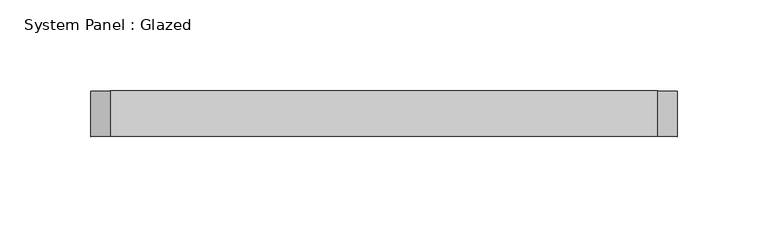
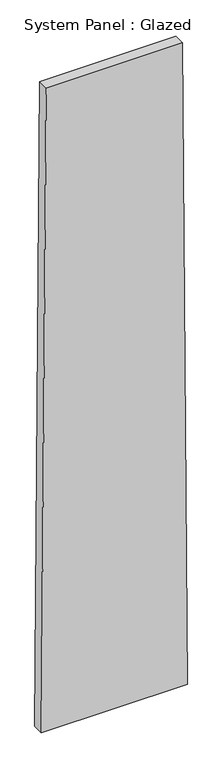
"""IFC4 building model written with IfcOpenShell, lengths in millimetres: plate geometry, System Panel : Glazed."""

from ifc_helpers import new_model, si_unit, frame, origin, place, context, project, spatial, polyline, outline, extrude, source, transform, mapped, element, save


def system_panel_glazed_ca00df24(model_context):
    return source(origin(), model_context, "Body", "SweptSolid", [
        extrude(outline(polyline([(0.0, -161.1005585), (0.0, 161.1005585), (1499.9634375, 150.6273521), (1499.9634375, -150.6274434), (0.0, -161.1005585)])), frame((0.0, -49.5, 0.0), z_axis=(0.0, 1.0, 0.0), x_axis=(0.0, 0.0, 1.0)), (0.0, 0.0, 1.0), 25.0),
    ])


if __name__ == "__main__":
    model = new_model("IFC4")
    model_context = context("Model", 3, world=origin())
    ifc_project = project(units=[si_unit("LENGTHUNIT", "METRE", prefix="MILLI")], contexts=[model_context])
    site = spatial("IfcSite", under=ifc_project)
    building = spatial("IfcBuilding", under=site)
    placement = place(None, origin())
    system_panel_glazed_shape = system_panel_glazed_ca00df24(model_context)
    element("IfcPlate", 1, ObjectType="System Panel : Glazed", at=placement, inside=building, context=model_context, shape_type="MappedRepresentation", body=[
        mapped(system_panel_glazed_shape, transform((0.0, 0.0, 0.0), x_axis=(1.0, 0.0, 0.0), y_axis=(0.0, 1.0, 0.0), z_axis=(0.0, 0.0, 1.0))),
    ])
    save(model, "model.ifc")
